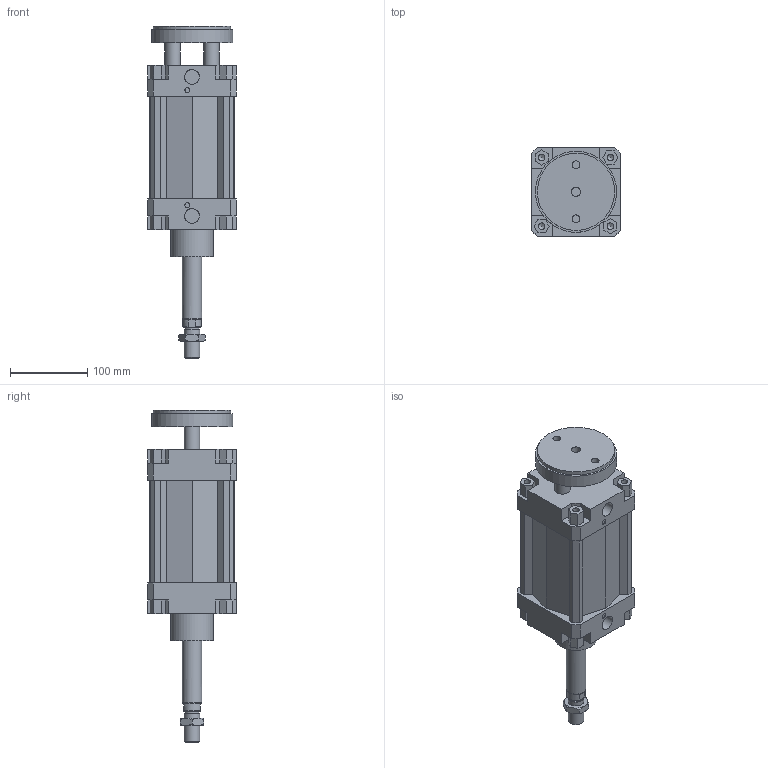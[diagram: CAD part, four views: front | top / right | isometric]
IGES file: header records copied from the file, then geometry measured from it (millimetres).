
Global section: file name: 132#_100_0075_02; native system: Autodesk Inventor 2014; preprocessor: unknown; author: A. Manieri; date: 20161006.163638; units: millimetre
Bounding box: 115 x 115 x 430 mm (x, y, z)
Volume: 2145521.6 mm3; surface area: 309329.4 mm2
Topology: 3 solids, 3 shells, 220 faces, 589 edges, 397 vertices
Faces by surface type: bspline 220
